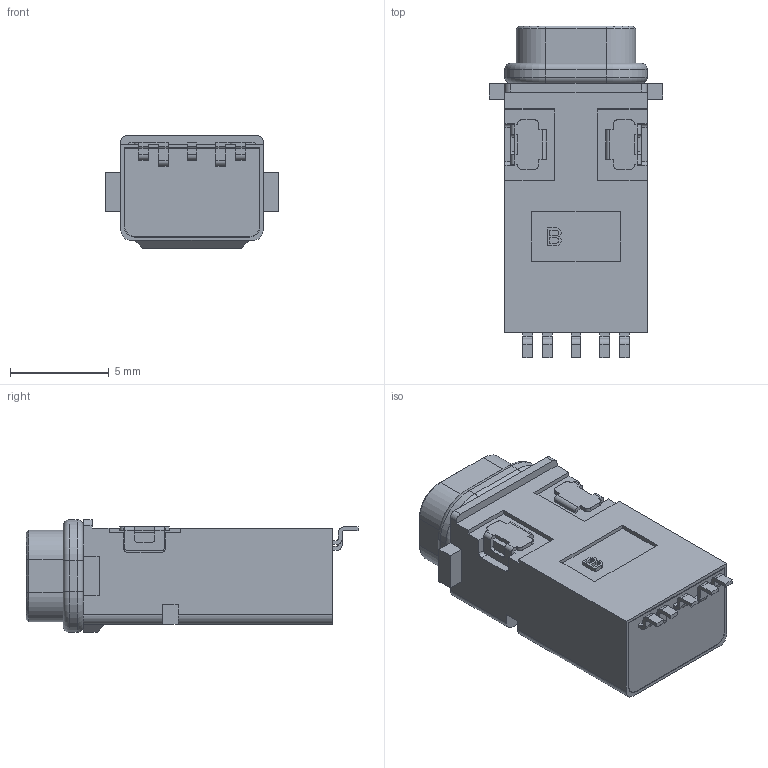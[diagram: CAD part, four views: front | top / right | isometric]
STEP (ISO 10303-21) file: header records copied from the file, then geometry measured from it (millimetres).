
FILE_DESCRIPTION((''),'2;1');
FILE_NAME('DM35A005-07SP','2026-06-28T',('WYH'),(''),'PRO/ENGINEER BY PARAMETRIC TECHNOLOGY CORPORATION, 2013040','PRO/ENGINEER BY PARAMETRIC TECHNOLOGY CORPORATION, 2013040','');
FILE_SCHEMA(('CONFIG_CONTROL_DESIGN'));
Length unit declared in the file: millimetre
Products named in the file (1): DM35A005-07SP
Bounding box: 8.8 x 16.8 x 5.7 mm (x, y, z)
Volume: 402.4 mm3; surface area: 831.5 mm2
Topology: 1 solids, 1 shells, 319 faces, 911 edges, 596 vertices
Faces by surface type: plane 223, cylinder 82, torus 8, cone 6
Entity records: 10401 total; most frequent: CARTESIAN_POINT 1882, ORIENTED_EDGE 1822, DIRECTION 1711, EDGE_CURVE 911, VECTOR 717, LINE 717, VERTEX_POINT 596, AXIS2_PLACEMENT_3D 497
